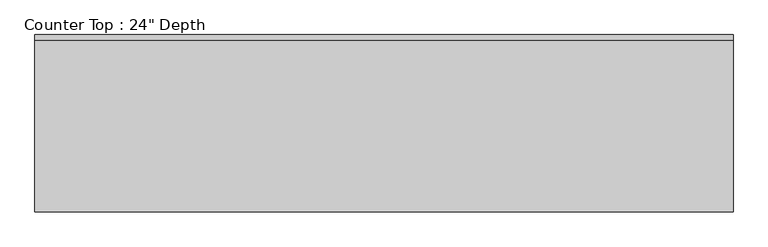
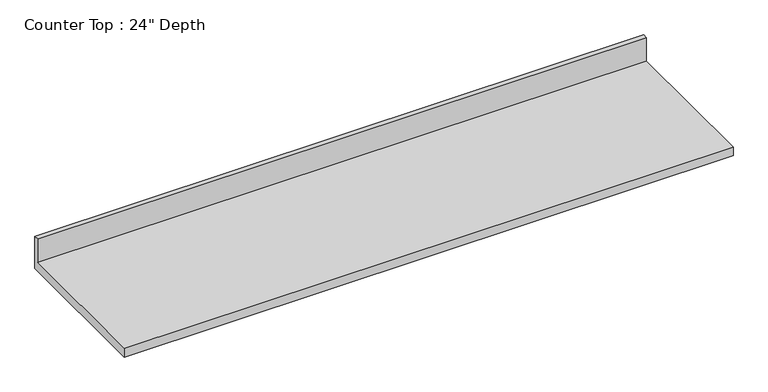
"""IFC4 building model written with IfcOpenShell, lengths in millimetres: furniture geometry."""

from ifc_helpers import new_model, si_unit, frame, origin, place, context, project, spatial, polyline, outline, extrude, source, transform, mapped, element, save


def furniture_01140236(model_context):
    return source(origin(), model_context, "Body", "SweptSolid", [
        extrude(outline(polyline([(0.0, 1016.0), (0.0, 876.3), (-635.0, 876.3), (-635.0, 914.4), (-19.05, 914.4), (-19.05, 1016.0), (0.0, 1016.0)])), frame((-1200.4622951, 0.0, 0.0), z_axis=(1.0, 0.0, 0.0), x_axis=(0.0, 1.0, 0.0)), (0.0, 0.0, 1.0), 2497.1375),
    ])


if __name__ == "__main__":
    model = new_model("IFC4")
    model_context = context("Model", 3, world=origin())
    ifc_project = project(units=[si_unit("LENGTHUNIT", "METRE", prefix="MILLI")], contexts=[model_context])
    site = spatial("IfcSite", under=ifc_project)
    building = spatial("IfcBuilding", under=site)
    placement = place(None, origin())
    furniture_shape = furniture_01140236(model_context)
    element("IfcFurniture", 1, ObjectType="Counter Top : 24\" Depth", at=placement, inside=building, context=model_context, shape_type="MappedRepresentation", body=[
        mapped(furniture_shape, transform((0.0, 0.0, 0.0), x_axis=(1.0, 0.0, 0.0), y_axis=(0.0, 1.0, 0.0), z_axis=(0.0, 0.0, 1.0))),
    ])
    save(model, "model.ifc")
